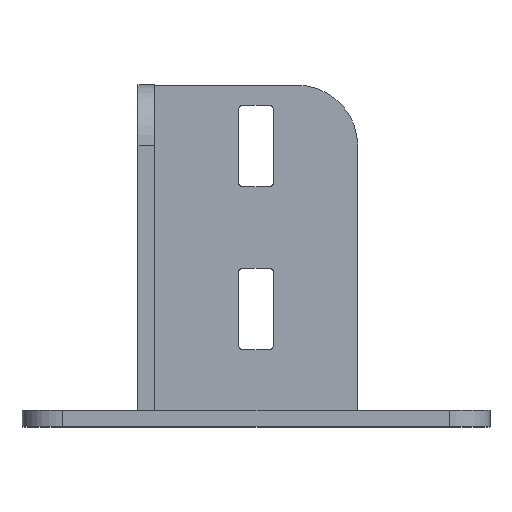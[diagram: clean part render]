
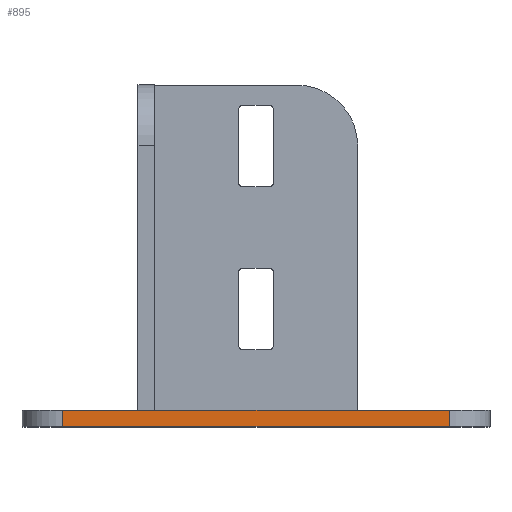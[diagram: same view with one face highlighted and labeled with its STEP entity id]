
A CAD part, top view. The second image highlights one B-rep face of the part: STEP entity #895.
In plain terms, the highlighted planar face has unit normal (0, 0, 1).
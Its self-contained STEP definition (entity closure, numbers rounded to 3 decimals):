
#8 = LINE ( 'NONE', #484, #1126 ) ;
#86 = DIRECTION ( 'NONE',  ( 1., 0., 0. ) ) ;
#88 = VERTEX_POINT ( 'NONE', #270 ) ;
#173 = DIRECTION ( 'NONE',  ( 0., -1., 0. ) ) ;
#186 = ORIENTED_EDGE ( 'NONE', *, *, #2212, .T. ) ;
#270 = CARTESIAN_POINT ( 'NONE',  ( 47.5, 4., 57.5 ) ) ;
#292 = CARTESIAN_POINT ( 'NONE',  ( -47.5, 0., 57.5 ) ) ;
#408 = CARTESIAN_POINT ( 'NONE',  ( -47.5, 4., 57.5 ) ) ;
#484 = CARTESIAN_POINT ( 'NONE',  ( -47.5, 4., 57.5 ) ) ;
#492 = LINE ( 'NONE', #2403, #2010 ) ;
#595 = CARTESIAN_POINT ( 'NONE',  ( -47.5, 0., 57.5 ) ) ;
#603 = DIRECTION ( 'NONE',  ( 0., 0., -1. ) ) ;
#608 = FACE_OUTER_BOUND ( 'NONE', #1842, .T. ) ;
#631 = DIRECTION ( 'NONE',  ( 0., -1., 0. ) ) ;
#653 = EDGE_CURVE ( 'NONE', #88, #899, #1208, .T. ) ;
#683 = DIRECTION ( 'NONE',  ( 1., 0., 0. ) ) ;
#811 = CARTESIAN_POINT ( 'NONE',  ( 47.5, 4., 57.5 ) ) ;
#874 = VERTEX_POINT ( 'NONE', #595 ) ;
#895 = ADVANCED_FACE ( 'NONE', ( #608 ), #1590, .F. ) ;
#899 = VERTEX_POINT ( 'NONE', #1392 ) ;
#960 = EDGE_CURVE ( 'NONE', #1023, #874, #492, .T. ) ;
#1023 = VERTEX_POINT ( 'NONE', #1780 ) ;
#1119 = AXIS2_PLACEMENT_3D ( 'NONE', #408, #603, #1995 ) ;
#1126 = VECTOR ( 'NONE', #683, 1000. ) ;
#1208 = LINE ( 'NONE', #811, #1680 ) ;
#1309 = ORIENTED_EDGE ( 'NONE', *, *, #960, .T. ) ;
#1392 = CARTESIAN_POINT ( 'NONE',  ( 47.5, 0., 57.5 ) ) ;
#1444 = LINE ( 'NONE', #292, #2434 ) ;
#1590 = PLANE ( 'NONE',  #1119 ) ;
#1680 = VECTOR ( 'NONE', #631, 1000. ) ;
#1780 = CARTESIAN_POINT ( 'NONE',  ( -47.5, 4., 57.5 ) ) ;
#1785 = EDGE_CURVE ( 'NONE', #1023, #88, #8, .T. ) ;
#1842 = EDGE_LOOP ( 'NONE', ( #186, #1879, #2296, #1309 ) ) ;
#1879 = ORIENTED_EDGE ( 'NONE', *, *, #653, .F. ) ;
#1995 = DIRECTION ( 'NONE',  ( -1., 0., 0. ) ) ;
#2010 = VECTOR ( 'NONE', #173, 1000. ) ;
#2212 = EDGE_CURVE ( 'NONE', #874, #899, #1444, .T. ) ;
#2296 = ORIENTED_EDGE ( 'NONE', *, *, #1785, .F. ) ;
#2403 = CARTESIAN_POINT ( 'NONE',  ( -47.5, 4., 57.5 ) ) ;
#2434 = VECTOR ( 'NONE', #86, 1000. ) ;
